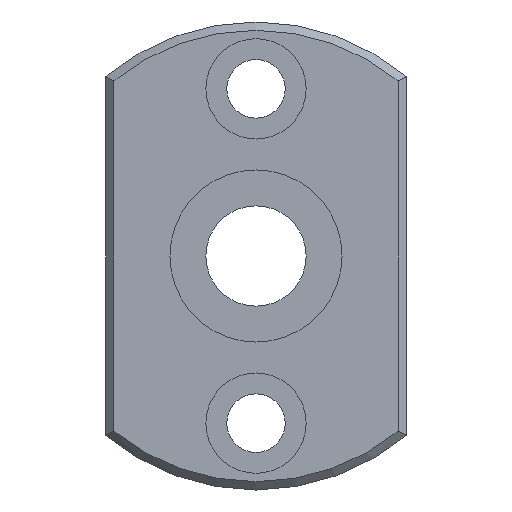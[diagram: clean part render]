
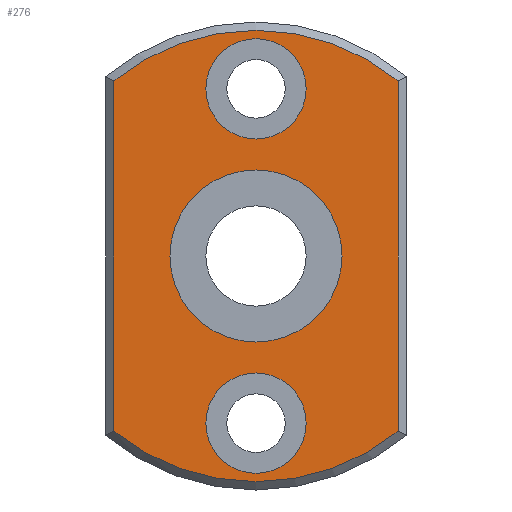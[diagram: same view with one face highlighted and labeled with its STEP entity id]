
A CAD part, left-side view. The second image highlights one B-rep face of the part: STEP entity #276.
In plain terms, the highlighted planar face has unit normal (-1, 0, 0).
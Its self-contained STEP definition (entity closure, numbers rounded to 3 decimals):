
#59=CARTESIAN_POINT('',(0.,8.5,-10.488));
#60=VERTEX_POINT('',#59);
#68=CARTESIAN_POINT('',(0.,8.5,10.488));
#69=VERTEX_POINT('',#68);
#70=CARTESIAN_POINT('',(0.,8.5,-10.488));
#71=DIRECTION('',(0.0,0.0,1.0));
#72=VECTOR('',#71,20.976);
#73=LINE('',#70,#72);
#74=EDGE_CURVE('',#60,#69,#73,.T.);
#101=CARTESIAN_POINT('',(0.,-8.5,10.488));
#102=VERTEX_POINT('',#101);
#103=CARTESIAN_POINT('',(0.,0.0,0.0));
#104=DIRECTION('',(1.0,0.0,0.0));
#105=DIRECTION('',(0.0,0.0,1.0));
#106=AXIS2_PLACEMENT_3D('',#103,#104,#105);
#107=CIRCLE('',#106,13.5);
#108=EDGE_CURVE('',#69,#102,#107,.T.);
#134=CARTESIAN_POINT('',(0.,-8.5,-10.488));
#135=VERTEX_POINT('',#134);
#136=CARTESIAN_POINT('',(0.,-8.5,10.488));
#137=DIRECTION('',(0.0,0.0,-1.0));
#138=VECTOR('',#137,20.976);
#139=LINE('',#136,#138);
#140=EDGE_CURVE('',#102,#135,#139,.T.);
#165=CARTESIAN_POINT('',(0.,0.0,0.0));
#166=DIRECTION('',(1.0,0.0,0.0));
#167=DIRECTION('',(0.0,0.0,-1.0));
#168=AXIS2_PLACEMENT_3D('',#165,#166,#167);
#169=CIRCLE('',#168,13.5);
#170=EDGE_CURVE('',#135,#60,#169,.T.);
#232=CARTESIAN_POINT('',(0.,0.0,5.575));
#233=DIRECTION('',(-1.0,0.0,0.0));
#234=DIRECTION('',(0.0,0.0,1.0));
#235=AXIS2_PLACEMENT_3D('',#232,#233,#234);
#236=PLANE('',#235);
#237=ORIENTED_EDGE('',*,*,#74,.F.);
#238=ORIENTED_EDGE('',*,*,#170,.F.);
#239=ORIENTED_EDGE('',*,*,#140,.F.);
#240=ORIENTED_EDGE('',*,*,#108,.F.);
#241=EDGE_LOOP('',(#237,#238,#239,#240));
#242=FACE_OUTER_BOUND('',#241,.T.);
#243=CARTESIAN_POINT('',(0.,0.0,5.15));
#244=VERTEX_POINT('',#243);
#245=CARTESIAN_POINT('',(0.,0.0,0.0));
#246=DIRECTION('',(-1.0,0.0,0.0));
#247=DIRECTION('',(0.0,0.0,1.0));
#248=AXIS2_PLACEMENT_3D('',#245,#246,#247);
#249=CIRCLE('',#248,5.15);
#250=EDGE_CURVE('',#244,#244,#249,.T.);
#251=ORIENTED_EDGE('',*,*,#250,.F.);
#252=EDGE_LOOP('',(#251));
#253=FACE_BOUND('',#252,.T.);
#254=CARTESIAN_POINT('',(0.0,3.,-10.0));
#255=VERTEX_POINT('',#254);
#256=CARTESIAN_POINT('',(0.,0.,-10.0));
#257=DIRECTION('',(1.0,0.0,0.0));
#258=DIRECTION('',(0.0,1.0,0.0));
#259=AXIS2_PLACEMENT_3D('',#256,#257,#258);
#260=CIRCLE('',#259,3.);
#261=EDGE_CURVE('',#255,#255,#260,.T.);
#262=ORIENTED_EDGE('',*,*,#261,.T.);
#263=EDGE_LOOP('',(#262));
#264=FACE_BOUND('',#263,.T.);
#265=CARTESIAN_POINT('',(0.0,3.,10.0));
#266=VERTEX_POINT('',#265);
#267=CARTESIAN_POINT('',(0.,0.,10.0));
#268=DIRECTION('',(1.0,0.0,0.0));
#269=DIRECTION('',(0.0,1.0,0.0));
#270=AXIS2_PLACEMENT_3D('',#267,#268,#269);
#271=CIRCLE('',#270,3.);
#272=EDGE_CURVE('',#266,#266,#271,.T.);
#273=ORIENTED_EDGE('',*,*,#272,.T.);
#274=EDGE_LOOP('',(#273));
#275=FACE_BOUND('',#274,.T.);
#276=ADVANCED_FACE('',(#242,#253,#264,#275),#236,.T.);
